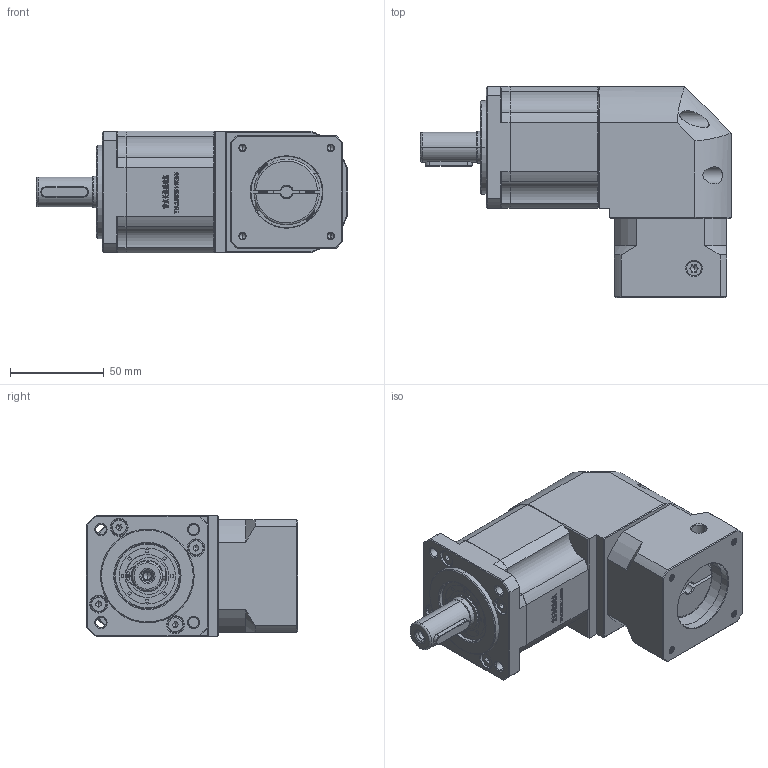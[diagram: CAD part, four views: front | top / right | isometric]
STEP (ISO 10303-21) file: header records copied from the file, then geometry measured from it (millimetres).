
FILE_DESCRIPTION (( 'STEP AP214' ), '1' );
FILE_NAME ('ZBR60-D16-L2-6.35-38.1-47.14x47.14-M4.STEP', '2022-04-19T08:13:29', ( '' ), ( 'Microsoft' ), 'SwSTEP 2.0', 'SolidWorks 2016', '' );
FILE_SCHEMA (( 'AUTOMOTIVE_DESIGN' ));
Length unit declared in the file: millimetre
Products named in the file (1): ZBR60-D16-L2-6.35-38.1-47.14x47.14-M4
Bounding box: 166 x 112.7 x 65 mm (x, y, z)
Volume: 592870.9 mm3; surface area: 83163.6 mm2
Topology: 5 solids, 5 shells, 2839 faces, 7670 edges, 4968 vertices
Faces by surface type: plane 1473, bspline 591, cylinder 426, cone 329, torus 20
Entity records: 153082 total; most frequent: CARTESIAN_POINT 54926, ORIENTED_EDGE 15280, DIRECTION 11606, EDGE_CURVE 7640, LINE 5042, VECTOR 5042, VERTEX_POINT 4968, AXIS2_PLACEMENT_3D 3282
